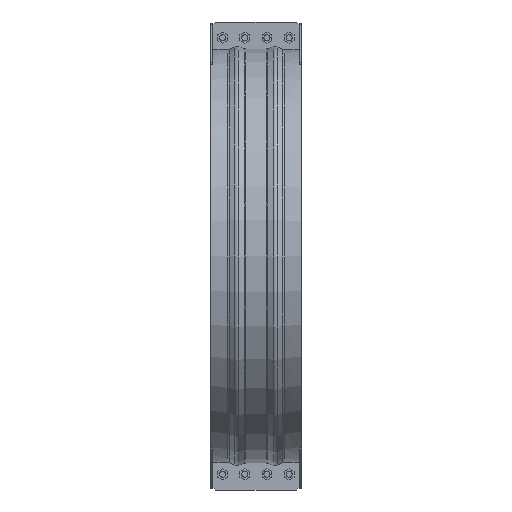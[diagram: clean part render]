
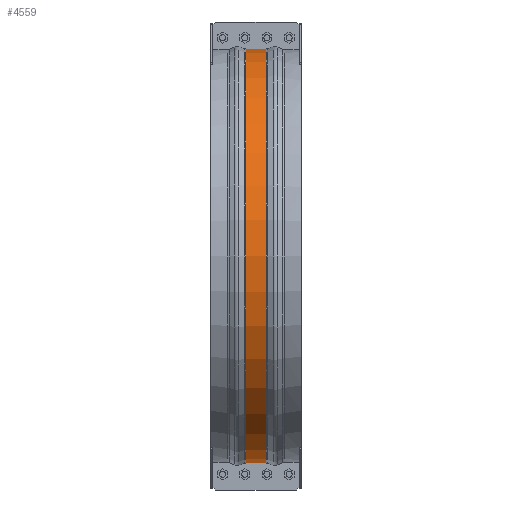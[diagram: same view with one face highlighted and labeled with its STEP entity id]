
A CAD part, front view. The second image highlights one B-rep face of the part: STEP entity #4559.
In plain terms, the highlighted cylindrical face has radius 854.377 mm (diameter 1708.75 mm), a partial arc.
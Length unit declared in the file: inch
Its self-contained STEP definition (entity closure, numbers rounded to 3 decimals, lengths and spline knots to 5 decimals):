
#414=FACE_OUTER_BOUND('',#671,.T.);
#671=EDGE_LOOP('',(#3465,#3466,#3467,#3468));
#1036=LINE('',#7017,#1485);
#1044=LINE('',#7149,#1493);
#1485=VECTOR('',#5630,0.3937);
#1493=VECTOR('',#5690,0.3937);
#1771=CIRCLE('',#4875,33.63689);
#1773=CIRCLE('',#4879,33.63689);
#2060=VERTEX_POINT('',#7009);
#2061=VERTEX_POINT('',#7016);
#2076=VERTEX_POINT('',#7134);
#2078=VERTEX_POINT('',#7147);
#2565=EDGE_CURVE('',#2061,#2060,#1036,.T.);
#2590=EDGE_CURVE('',#2076,#2061,#1771,.T.);
#2594=EDGE_CURVE('',#2078,#2060,#1773,.T.);
#2595=EDGE_CURVE('',#2078,#2076,#1044,.T.);
#3465=ORIENTED_EDGE('',*,*,#2565,.T.);
#3466=ORIENTED_EDGE('',*,*,#2594,.F.);
#3467=ORIENTED_EDGE('',*,*,#2595,.T.);
#3468=ORIENTED_EDGE('',*,*,#2590,.T.);
#4182=CYLINDRICAL_SURFACE('',#4878,33.63689);
#4559=ADVANCED_FACE('',(#414),#4182,.T.);
#4875=AXIS2_PLACEMENT_3D('',#7135,#5679,#5680);
#4878=AXIS2_PLACEMENT_3D('',#7146,#5686,#5687);
#4879=AXIS2_PLACEMENT_3D('',#7148,#5688,#5689);
#5630=DIRECTION('',(1.,0.,0.));
#5679=DIRECTION('center_axis',(1.,0.,0.));
#5680=DIRECTION('ref_axis',(0.,0.,-1.));
#5686=DIRECTION('center_axis',(1.,0.,0.));
#5687=DIRECTION('ref_axis',(0.,-1.,0.));
#5688=DIRECTION('center_axis',(1.,0.,0.));
#5689=DIRECTION('ref_axis',(0.,0.,-1.));
#5690=DIRECTION('',(-1.,0.,0.));
#7009=CARTESIAN_POINT('',(1.64101,-0.375,-33.6348));
#7016=CARTESIAN_POINT('',(-1.64101,-0.375,-33.6348));
#7017=CARTESIAN_POINT('',(0.,-0.375,-33.6348));
#7134=CARTESIAN_POINT('',(-1.64101,-0.375,33.6348));
#7135=CARTESIAN_POINT('Origin',(-1.64101,0.,0.));
#7146=CARTESIAN_POINT('Origin',(0.,0.,0.));
#7147=CARTESIAN_POINT('',(1.64101,-0.375,33.6348));
#7148=CARTESIAN_POINT('Origin',(1.64101,0.,0.));
#7149=CARTESIAN_POINT('',(0.,-0.375,33.6348));
